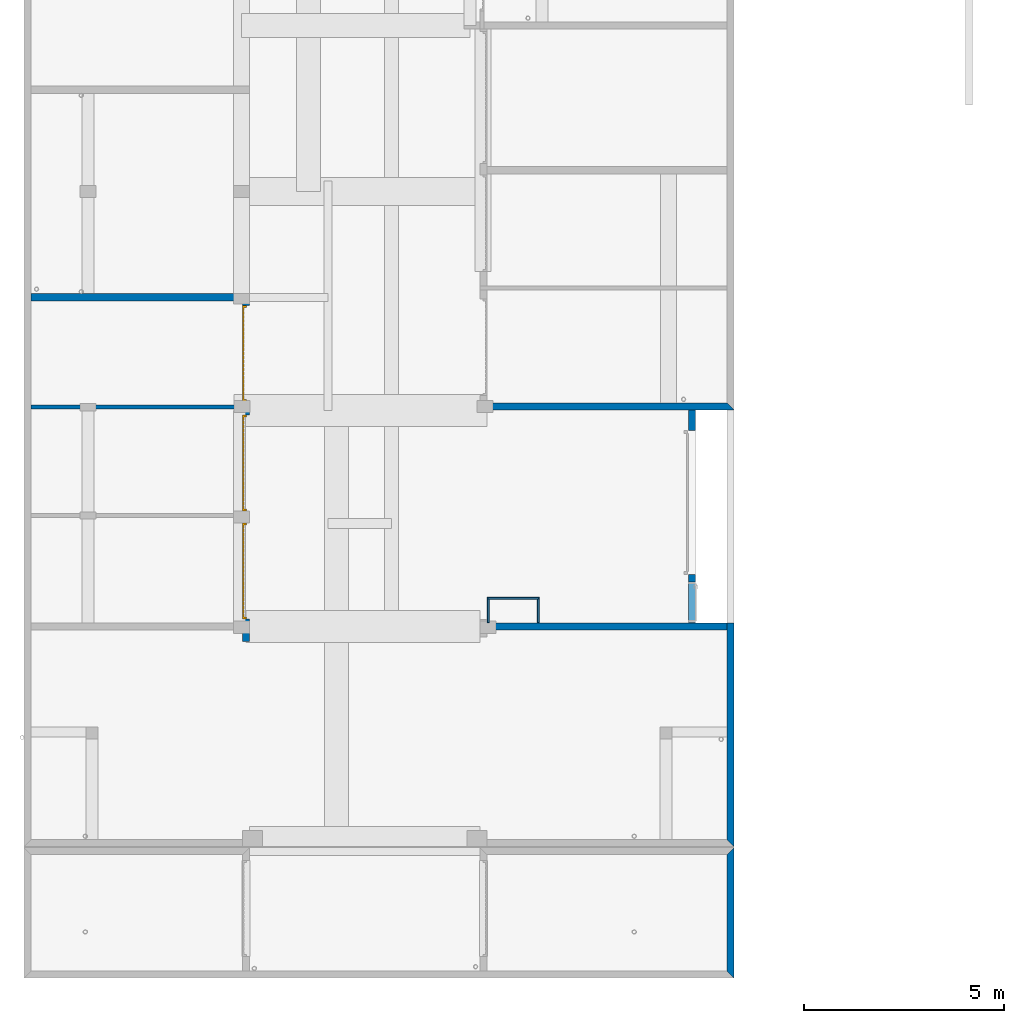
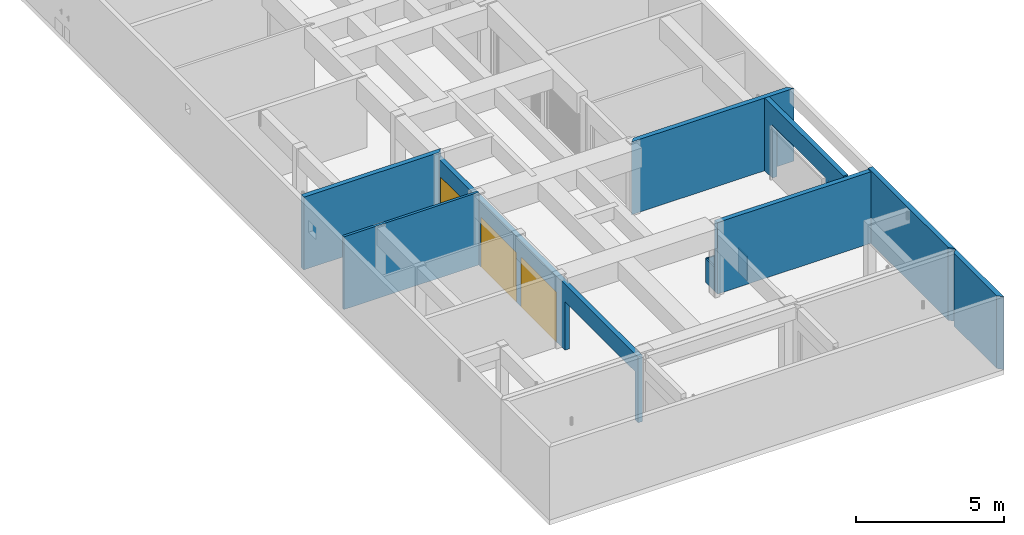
# One storey, part 5 of 41: 11 walls, 3 doors, 6 openings.
"""IFC2X3 building model written with IfcOpenShell, lengths in millimetres."""

from ifc_helpers import new_model, entity, si_unit, converted_unit, derived_unit, money_unit, direction, frame, origin_with_axes, origin_2d_with_axis, place, context, subcontext, project, spatial, polyline, rectangle, outline, extrude, faceted_brep, source, transform, mapped, material, layer, layer_set, layer_usage, type_object, element, fill, save


model = new_model("IFC2X3")

# Units and contexts
model_context = context("Model", 3, precision=0.01, world=origin_with_axes(), true_north=direction((0.0, 1.0)))
body_context = subcontext(model_context, "Body", "Model", "MODEL_VIEW")
ifc_project = project(units=[si_unit("LENGTHUNIT", "METRE", prefix="MILLI"), si_unit("AREAUNIT", "SQUARE_METRE"), si_unit("VOLUMEUNIT", "CUBIC_METRE"), converted_unit("PLANEANGLEUNIT", "DEGREE", entity("IfcPlaneAngleMeasure", 0.0174532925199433), si_unit("PLANEANGLEUNIT", "RADIAN"), dimensions=[0, 0, 0, 0, 0, 0, 0]), money_unit("USD"), converted_unit("TIMEUNIT", "Year", entity("IfcTimeMeasure", 31557600.0), si_unit("TIMEUNIT", "SECOND"), dimensions=[0, 0, 1, 0, 0, 0, 0]), si_unit("MASSUNIT", "GRAM", prefix="KILO"), si_unit("THERMODYNAMICTEMPERATUREUNIT", "DEGREE_CELSIUS"), si_unit("LUMINOUSINTENSITYUNIT", "LUMEN"), si_unit("ENERGYUNIT", "JOULE", prefix="MEGA"), derived_unit("THERMALCONDUCTANCEUNIT", [(si_unit("POWERUNIT", "WATT"), 1), (si_unit("LENGTHUNIT", "METRE"), -1), (si_unit("THERMODYNAMICTEMPERATUREUNIT", "KELVIN"), -1)]), derived_unit("SPECIFICHEATCAPACITYUNIT", [(si_unit("ENERGYUNIT", "JOULE"), 1), (si_unit("MASSUNIT", "GRAM", prefix="KILO"), -1), (si_unit("THERMODYNAMICTEMPERATUREUNIT", "KELVIN"), -1)]), derived_unit("MASSDENSITYUNIT", [(si_unit("MASSUNIT", "GRAM", prefix="KILO"), 1), (si_unit("VOLUMEUNIT", "CUBIC_METRE"), -1)])], contexts=[model_context])

# Site, building, storey
site_placement = place(None, origin_with_axes())
site = spatial("IfcSite", under=ifc_project, at=site_placement, Name="Site", CompositionType="ELEMENT")
building_placement = place(site_placement, origin_with_axes())
building = spatial("IfcBuilding", under=site, at=building_placement, Name="Bâtiment", CompositionType="ELEMENT")
storey_placement = place(building_placement, origin_with_axes())
storey = spatial("IfcBuildingStorey", under=building, at=storey_placement, Name="sousol", CompositionType="ELEMENT", Elevation=0.0)

# Walls
ifc_material_1 = material(Name="Brique 1 268964100")
ifc_layer_1 = layer(ifc_material_1, 100.0, ventilated="UNKNOWN")
ifc_layer_set_1 = layer_set([ifc_layer_1], Name="Cloison 100 gaine")
ifc_layer_usage_1 = layer_usage(ifc_layer_set_1, "AXIS2", "NEGATIVE", 0.0)
wall_type_1 = type_object("IfcWallType", Name="Cloison 100 gaine 100", PredefinedType="NOTDEFINED")
wall_1_placement = place(storey_placement, frame((2222264.233344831, -646896.3764873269, 0.0), z_axis=(0.0, 0.0, 1.0), x_axis=(-1.0, 0.0, 0.0)))
element("IfcWallStandardCase", 1, at=wall_1_placement, inside=storey, type_object=wall_type_1, material=ifc_layer_usage_1, Name="Mur-133", context=body_context, shape_type="SweptSolid", body=[
    extrude(outline(polyline([(180.0000000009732, -99.99999999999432), (5450.000000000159, -99.99999999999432), (5450.000000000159, 0.0), (180.0000000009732, 0.0), (180.0000000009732, -99.99999999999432)])), origin_with_axes(), (0.0, 0.0, 1.0), 3000.0),
])
ifc_material_2 = material(Name="Parpaing 314940890")
ifc_layer_2 = layer(ifc_material_2, 180.0, ventilated="UNKNOWN")
ifc_layer_set_2 = layer_set([ifc_layer_2], Name="Beton  18 0170347028")
ifc_layer_usage_2 = layer_usage(ifc_layer_set_2, "AXIS2", "POSITIVE", 0.0)
wall_type_2 = type_object("IfcWallType", Name="Beton  18 0170347028 180", PredefinedType="NOTDEFINED")
wall_2_placement = place(storey_placement, frame((2222264.233344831, -644016.3764873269, 0.0), z_axis=(0.0, 0.0, 1.0), x_axis=(-1.0, 0.0, 0.0)))
element("IfcWallStandardCase", 2, at=wall_2_placement, inside=storey, type_object=wall_type_2, material=ifc_layer_usage_2, Name="Mur-133", context=body_context, shape_type="SweptSolid", body=[
    extrude(outline(polyline([(1.477928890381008e-09, 0.0), (5450.0000000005, 0.0), (5450.0000000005, 180.0000000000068), (180.0000000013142, 180.0000000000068), (1.477928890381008e-09, 0.0)])), origin_with_axes(), (0.0, 0.0, 1.0), 3000.0),
])
ifc_layer_usage_3 = layer_usage(ifc_layer_set_2, "AXIS2", "POSITIVE", 0.0)
wall_3_placement = place(storey_placement, frame((2228014.233344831, -652412.6820620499, 0.0), z_axis=(0.0, 0.0, 1.0), x_axis=(1.0, 0.0, 0.0)))
element("IfcWallStandardCase", 3, at=wall_3_placement, inside=storey, type_object=wall_type_2, material=ifc_layer_usage_3, Name="Mur-133", context=body_context, shape_type="SweptSolid", body=[
    extrude(outline(polyline([(179.9999851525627, 0.0), (6162.407998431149, 0.0), (6162.407998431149, 180.0000000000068), (179.9999851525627, 180.0000000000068), (179.9999851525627, 0.0)])), origin_with_axes(), (0.0, 0.0, 1.0), 2950.0),
])

# Wall, openings, doors
ifc_layer_usage_4 = layer_usage(ifc_layer_set_2, "AXIS2", "NEGATIVE", 0.0)
wall_4_placement = place(storey_placement, frame((2222264.233344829, -644016.3764873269, 0.0), z_axis=(0.0, 0.0, 1.0), x_axis=(0.0, -1.0, 0.0)))
wall_4 = element("IfcWallStandardCase", 4, at=wall_4_placement, inside=storey, type_object=wall_type_2, material=ifc_layer_usage_4, Name="Mur-133", context=body_context, shape_type="SweptSolid", body=[
    extrude(outline(polyline([(180.0000000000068, -180.0000000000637), (13621.94658963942, -179.99999999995), (13621.94658963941, 0.0), (0.0, 0.0), (180.0000000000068, -180.0000000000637)])), origin_with_axes(), (0.0, 0.0, 1.0), 2719.999999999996),
])
opening_1_placement = place(wall_4_placement, frame((1488.943890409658, 1.13686837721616e-10, 0.0), z_axis=(0.0, 0.0, 1.0), x_axis=(1.0, 0.0, 0.0)))
opening_1 = element("IfcOpeningElement", 5, at=opening_1_placement, cuts=wall_4, Name="Por-296", context=body_context, shape_type="SweptSolid", body=[
    extrude(rectangle(XDim=2400.000000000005, YDim=2050.0, at=origin_2d_with_axis()), frame((0.0, -179.99999999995, 1025.0), z_axis=(0.0, 1.0, 0.0), x_axis=(1.0, 0.0, 0.0)), (0.0, 0.0, -1.0), 180.0),
    extrude(rectangle(XDim=2400.000000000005, YDim=2050.0, at=origin_2d_with_axis()), frame((0.0, -179.99999999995, 1025.0), z_axis=(0.0, -1.0, 0.0), x_axis=(1.0, 0.0, 0.0)), (0.0, 0.0, -1.0), 180.0),
])
opening_2_placement = place(wall_4_placement, frame((6921.079189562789, 2.273736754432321e-10, 0.0), z_axis=(0.0, 0.0, 1.0), x_axis=(1.0, 0.0, 0.0)))
opening_2 = element("IfcOpeningElement", 6, at=opening_2_placement, cuts=wall_4, Name="Por-296", context=body_context, shape_type="SweptSolid", body=[
    extrude(rectangle(XDim=2400.000000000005, YDim=2050.0, at=origin_2d_with_axis()), frame((0.0, -180.0000000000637, 1025.0), z_axis=(0.0, 1.0, 0.0), x_axis=(1.0, 0.0, 0.0)), (0.0, 0.0, -1.0), 180.0),
    extrude(rectangle(XDim=2400.000000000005, YDim=2050.0, at=origin_2d_with_axis()), frame((0.0, -180.0000000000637, 1025.0), z_axis=(0.0, -1.0, 0.0), x_axis=(1.0, 0.0, 0.0)), (0.0, 0.0, -1.0), 180.0),
])
opening_3_placement = place(wall_4_placement, frame((11040.72933361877, 2.273736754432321e-10, 0.0), z_axis=(0.0, 0.0, 1.0), x_axis=(1.0, 0.0, 0.0)))
element("IfcOpeningElement", 7, at=opening_3_placement, cuts=wall_4, Name="Por-241", context=body_context, shape_type="SweptSolid", body=[
    extrude(rectangle(XDim=4722.434512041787, YDim=2000.0, at=origin_2d_with_axis()), frame((0.0, -180.0000000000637, 999.9999999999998), z_axis=(0.0, 1.0, 0.0), x_axis=(1.0, 0.0, 0.0)), (0.0, 0.0, -1.0), 180.0),
    extrude(rectangle(XDim=4722.434512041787, YDim=2000.0, at=origin_2d_with_axis()), frame((0.0, -180.0000000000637, 999.9999999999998), z_axis=(0.0, -1.0, 0.0), x_axis=(1.0, 0.0, 0.0)), (0.0, 0.0, -1.0), 180.0),
])
opening_4_placement = place(wall_4_placement, frame((4223.444034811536, 1.13686837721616e-10, 0.0), z_axis=(0.0, 0.0, 1.0), x_axis=(1.0, 0.0, 0.0)))
opening_4 = element("IfcOpeningElement", 8, at=opening_4_placement, cuts=wall_4, Name="Por-296", context=body_context, shape_type="SweptSolid", body=[
    extrude(rectangle(XDim=2400.000000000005, YDim=2050.0, at=origin_2d_with_axis()), frame((0.0, -179.99999999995, 1025.0), z_axis=(0.0, 1.0, 0.0), x_axis=(1.0, 0.0, 0.0)), (0.0, 0.0, -1.0), 180.0),
    extrude(rectangle(XDim=2400.000000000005, YDim=2050.0, at=origin_2d_with_axis()), frame((0.0, -179.99999999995, 1025.0), z_axis=(0.0, -1.0, 0.0), x_axis=(1.0, 0.0, 0.0)), (0.0, 0.0, -1.0), 180.0),
])
door_style = type_object("IfcDoorStyle", Name="P_garage 1", ConstructionType="NOTDEFINED", OperationType="NOTDEFINED", ParameterTakesPrecedence=False, Sizeable=False)
shared_shape = source(origin_with_axes(), body_context, "Body", "Brep", [
    faceted_brep([(-1200.0, 0.0, 0.0), (-1150.0, 0.0, 0.0), (-1150.0, -100.0, 0.0), (-1200.0, -100.0, 0.0), (-1200.0, 0.0, 2050.0), (1200.0, 0.0, 2050.0), (1200.0, 0.0, 0.0), (1150.0, 0.0, 0.0), (1150.0, 0.0, 2000.0), (-1150.0, 0.0, 2000.0), (-1150.0, -100.0, 2000.0), (1150.0, -100.0, 2000.0), (1150.0, -100.0, 0.0), (1200.0, -100.0, 0.0), (1200.0, -100.0, 2050.0), (-1200.0, -100.0, 2050.0)], [[[0, 1, 2, 3]], [[0, 4, 5, 6, 7, 8, 9, 1]], [[1, 9, 10, 2]], [[3, 2, 10, 11, 12, 13, 14, 15]], [[4, 0, 3, 15]], [[5, 4, 15, 14]], [[6, 5, 14, 13]], [[7, 6, 13, 12]], [[8, 7, 12, 11]], [[9, 8, 11, 10]]]),
    faceted_brep([(-1069.130434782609, -40.0, 0.0), (-1069.130434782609, -26.66666666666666, 0.0), (-1069.130434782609, -26.66666666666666, 2000.0), (-1069.130434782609, -40.0, 2000.0), (-1150.0, -40.0, 0.0), (-1150.0, -26.66666666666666, 0.0), (-1150.0, -26.66666666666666, 2000.0), (-1150.0, -40.0, 2000.0)], [[[0, 1, 2, 3]], [[4, 5, 1, 0]], [[1, 5, 6, 2]], [[3, 2, 6, 7]], [[0, 3, 7, 4]], [[7, 6, 5, 4]]]),
    faceted_brep([(-968.2608695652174, -40.0, 0.0), (-968.2608695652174, -26.66666666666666, 0.0), (-968.2608695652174, -26.66666666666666, 2000.0), (-968.2608695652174, -40.0, 2000.0), (-1049.130434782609, -40.0, 0.0), (-1049.130434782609, -26.66666666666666, 0.0), (-1049.130434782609, -26.66666666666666, 2000.0), (-1049.130434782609, -40.0, 2000.0)], [[[0, 1, 2, 3]], [[4, 5, 1, 0]], [[1, 5, 6, 2]], [[3, 2, 6, 7]], [[0, 3, 7, 4]], [[7, 6, 5, 4]]]),
    faceted_brep([(-867.3913043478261, -40.0, 0.0), (-867.3913043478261, -26.66666666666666, 0.0), (-867.3913043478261, -26.66666666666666, 2000.0), (-867.3913043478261, -40.0, 2000.0), (-948.2608695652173, -40.0, 0.0), (-948.2608695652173, -26.66666666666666, 0.0), (-948.2608695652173, -26.66666666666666, 2000.0), (-948.2608695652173, -40.0, 2000.0)], [[[0, 1, 2, 3]], [[4, 5, 1, 0]], [[1, 5, 6, 2]], [[3, 2, 6, 7]], [[0, 3, 7, 4]], [[7, 6, 5, 4]]]),
    faceted_brep([(-766.5217391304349, -40.0, 0.0), (-766.5217391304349, -26.66666666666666, 0.0), (-766.5217391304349, -26.66666666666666, 2000.0), (-766.5217391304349, -40.0, 2000.0), (-847.391304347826, -40.0, 0.0), (-847.391304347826, -26.66666666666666, 0.0), (-847.391304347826, -26.66666666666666, 2000.0), (-847.391304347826, -40.0, 2000.0)], [[[0, 1, 2, 3]], [[4, 5, 1, 0]], [[1, 5, 6, 2]], [[3, 2, 6, 7]], [[0, 3, 7, 4]], [[7, 6, 5, 4]]]),
    faceted_brep([(-665.6521739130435, -40.0, 0.0), (-665.6521739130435, -26.66666666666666, 0.0), (-665.6521739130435, -26.66666666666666, 2000.0), (-665.6521739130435, -40.0, 2000.0), (-746.5217391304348, -40.0, 0.0), (-746.5217391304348, -26.66666666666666, 0.0), (-746.5217391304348, -26.66666666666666, 2000.0), (-746.5217391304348, -40.0, 2000.0)], [[[0, 1, 2, 3]], [[4, 5, 1, 0]], [[1, 5, 6, 2]], [[3, 2, 6, 7]], [[0, 3, 7, 4]], [[7, 6, 5, 4]]]),
    faceted_brep([(-564.7826086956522, -40.0, 0.0), (-564.7826086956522, -26.66666666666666, 0.0), (-564.7826086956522, -26.66666666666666, 2000.0), (-564.7826086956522, -40.0, 2000.0), (-645.6521739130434, -40.0, 0.0), (-645.6521739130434, -26.66666666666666, 0.0), (-645.6521739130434, -26.66666666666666, 2000.0), (-645.6521739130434, -40.0, 2000.0)], [[[0, 1, 2, 3]], [[4, 5, 1, 0]], [[1, 5, 6, 2]], [[3, 2, 6, 7]], [[0, 3, 7, 4]], [[7, 6, 5, 4]]]),
    faceted_brep([(-463.9130434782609, -40.0, 0.0), (-463.9130434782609, -26.66666666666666, 0.0), (-463.9130434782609, -26.66666666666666, 2000.0), (-463.9130434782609, -40.0, 2000.0), (-544.7826086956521, -40.0, 0.0), (-544.7826086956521, -26.66666666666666, 0.0), (-544.7826086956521, -26.66666666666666, 2000.0), (-544.7826086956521, -40.0, 2000.0)], [[[0, 1, 2, 3]], [[4, 5, 1, 0]], [[1, 5, 6, 2]], [[3, 2, 6, 7]], [[0, 3, 7, 4]], [[7, 6, 5, 4]]]),
    faceted_brep([(-363.0434782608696, -40.0, 0.0), (-363.0434782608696, -26.66666666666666, 0.0), (-363.0434782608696, -26.66666666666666, 2000.0), (-363.0434782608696, -40.0, 2000.0), (-443.9130434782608, -40.0, 0.0), (-443.9130434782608, -26.66666666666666, 0.0), (-443.9130434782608, -26.66666666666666, 2000.0), (-443.9130434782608, -40.0, 2000.0)], [[[0, 1, 2, 3]], [[4, 5, 1, 0]], [[1, 5, 6, 2]], [[3, 2, 6, 7]], [[0, 3, 7, 4]], [[7, 6, 5, 4]]]),
    faceted_brep([(-262.1739130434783, -40.0, 0.0), (-262.1739130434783, -26.66666666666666, 0.0), (-262.1739130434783, -26.66666666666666, 2000.0), (-262.1739130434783, -40.0, 2000.0), (-343.0434782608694, -40.0, 0.0), (-343.0434782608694, -26.66666666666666, 0.0), (-343.0434782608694, -26.66666666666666, 2000.0), (-343.0434782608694, -40.0, 2000.0)], [[[0, 1, 2, 3]], [[4, 5, 1, 0]], [[1, 5, 6, 2]], [[3, 2, 6, 7]], [[0, 3, 7, 4]], [[7, 6, 5, 4]]]),
    faceted_brep([(-161.3043478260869, -40.0, 0.0), (-161.3043478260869, -26.66666666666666, 0.0), (-161.3043478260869, -26.66666666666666, 2000.0), (-161.3043478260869, -40.0, 2000.0), (-242.1739130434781, -40.0, 0.0), (-242.1739130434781, -26.66666666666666, 0.0), (-242.1739130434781, -26.66666666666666, 2000.0), (-242.1739130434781, -40.0, 2000.0)], [[[0, 1, 2, 3]], [[4, 5, 1, 0]], [[1, 5, 6, 2]], [[3, 2, 6, 7]], [[0, 3, 7, 4]], [[7, 6, 5, 4]]]),
    faceted_brep([(-60.43478260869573, -40.0, 0.0), (-60.43478260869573, -26.66666666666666, 0.0), (-60.43478260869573, -26.66666666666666, 2000.0), (-60.43478260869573, -40.0, 2000.0), (-141.3043478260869, -40.0, 0.0), (-141.3043478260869, -26.66666666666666, 0.0), (-141.3043478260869, -26.66666666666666, 2000.0), (-141.3043478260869, -40.0, 2000.0)], [[[0, 1, 2, 3]], [[4, 5, 1, 0]], [[1, 5, 6, 2]], [[3, 2, 6, 7]], [[0, 3, 7, 4]], [[7, 6, 5, 4]]]),
    faceted_brep([(40.43478260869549, -40.0, 0.0), (40.43478260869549, -26.66666666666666, 0.0), (40.43478260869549, -26.66666666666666, 2000.0), (40.43478260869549, -40.0, 2000.0), (-40.43478260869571, -40.0, 0.0), (-40.43478260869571, -26.66666666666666, 0.0), (-40.43478260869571, -26.66666666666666, 2000.0), (-40.43478260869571, -40.0, 2000.0)], [[[0, 1, 2, 3]], [[4, 5, 1, 0]], [[1, 5, 6, 2]], [[3, 2, 6, 7]], [[0, 3, 7, 4]], [[7, 6, 5, 4]]]),
    faceted_brep([(141.3043478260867, -40.0, 0.0), (141.3043478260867, -26.66666666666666, 0.0), (141.3043478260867, -26.66666666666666, 2000.0), (141.3043478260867, -40.0, 2000.0), (60.4347826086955, -40.0, 0.0), (60.4347826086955, -26.66666666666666, 0.0), (60.4347826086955, -26.66666666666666, 2000.0), (60.4347826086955, -40.0, 2000.0)], [[[0, 1, 2, 3]], [[4, 5, 1, 0]], [[1, 5, 6, 2]], [[3, 2, 6, 7]], [[0, 3, 7, 4]], [[7, 6, 5, 4]]]),
    faceted_brep([(242.1739130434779, -40.0, 0.0), (242.1739130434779, -26.66666666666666, 0.0), (242.1739130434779, -26.66666666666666, 2000.0), (242.1739130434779, -40.0, 2000.0), (161.3043478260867, -40.0, 0.0), (161.3043478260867, -26.66666666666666, 0.0), (161.3043478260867, -26.66666666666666, 2000.0), (161.3043478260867, -40.0, 2000.0)], [[[0, 1, 2, 3]], [[4, 5, 1, 0]], [[1, 5, 6, 2]], [[3, 2, 6, 7]], [[0, 3, 7, 4]], [[7, 6, 5, 4]]]),
    faceted_brep([(343.0434782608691, -40.0, 0.0), (343.0434782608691, -26.66666666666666, 0.0), (343.0434782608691, -26.66666666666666, 2000.0), (343.0434782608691, -40.0, 2000.0), (262.1739130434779, -40.0, 0.0), (262.1739130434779, -26.66666666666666, 0.0), (262.1739130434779, -26.66666666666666, 2000.0), (262.1739130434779, -40.0, 2000.0)], [[[0, 1, 2, 3]], [[4, 5, 1, 0]], [[1, 5, 6, 2]], [[3, 2, 6, 7]], [[0, 3, 7, 4]], [[7, 6, 5, 4]]]),
    faceted_brep([(443.9130434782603, -40.0, 0.0), (443.9130434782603, -26.66666666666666, 0.0), (443.9130434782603, -26.66666666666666, 2000.0), (443.9130434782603, -40.0, 2000.0), (363.0434782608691, -40.0, 0.0), (363.0434782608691, -26.66666666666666, 0.0), (363.0434782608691, -26.66666666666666, 2000.0), (363.0434782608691, -40.0, 2000.0)], [[[0, 1, 2, 3]], [[4, 5, 1, 0]], [[1, 5, 6, 2]], [[3, 2, 6, 7]], [[0, 3, 7, 4]], [[7, 6, 5, 4]]]),
    faceted_brep([(544.7826086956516, -40.0, 0.0), (544.7826086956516, -26.66666666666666, 0.0), (544.7826086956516, -26.66666666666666, 2000.0), (544.7826086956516, -40.0, 2000.0), (463.9130434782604, -40.0, 0.0), (463.9130434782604, -26.66666666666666, 0.0), (463.9130434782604, -26.66666666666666, 2000.0), (463.9130434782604, -40.0, 2000.0)], [[[0, 1, 2, 3]], [[4, 5, 1, 0]], [[1, 5, 6, 2]], [[3, 2, 6, 7]], [[0, 3, 7, 4]], [[7, 6, 5, 4]]]),
    faceted_brep([(645.6521739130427, -40.0, 0.0), (645.6521739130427, -26.66666666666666, 0.0), (645.6521739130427, -26.66666666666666, 2000.0), (645.6521739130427, -40.0, 2000.0), (564.7826086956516, -40.0, 0.0), (564.7826086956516, -26.66666666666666, 0.0), (564.7826086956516, -26.66666666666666, 2000.0), (564.7826086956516, -40.0, 2000.0)], [[[0, 1, 2, 3]], [[4, 5, 1, 0]], [[1, 5, 6, 2]], [[3, 2, 6, 7]], [[0, 3, 7, 4]], [[7, 6, 5, 4]]]),
    faceted_brep([(746.521739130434, -40.0, 0.0), (746.521739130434, -26.66666666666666, 0.0), (746.521739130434, -26.66666666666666, 2000.0), (746.521739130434, -40.0, 2000.0), (665.6521739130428, -40.0, 0.0), (665.6521739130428, -26.66666666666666, 0.0), (665.6521739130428, -26.66666666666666, 2000.0), (665.6521739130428, -40.0, 2000.0)], [[[0, 1, 2, 3]], [[4, 5, 1, 0]], [[1, 5, 6, 2]], [[3, 2, 6, 7]], [[0, 3, 7, 4]], [[7, 6, 5, 4]]]),
    faceted_brep([(847.3913043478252, -40.0, 0.0), (847.3913043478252, -26.66666666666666, 0.0), (847.3913043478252, -26.66666666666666, 2000.0), (847.3913043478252, -40.0, 2000.0), (766.521739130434, -40.0, 0.0), (766.521739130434, -26.66666666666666, 0.0), (766.521739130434, -26.66666666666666, 2000.0), (766.521739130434, -40.0, 2000.0)], [[[0, 1, 2, 3]], [[4, 5, 1, 0]], [[1, 5, 6, 2]], [[3, 2, 6, 7]], [[0, 3, 7, 4]], [[7, 6, 5, 4]]]),
    faceted_brep([(948.2608695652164, -40.0, 0.0), (948.2608695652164, -26.66666666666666, 0.0), (948.2608695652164, -26.66666666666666, 2000.0), (948.2608695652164, -40.0, 2000.0), (867.3913043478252, -40.0, 0.0), (867.3913043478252, -26.66666666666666, 0.0), (867.3913043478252, -26.66666666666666, 2000.0), (867.3913043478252, -40.0, 2000.0)], [[[0, 1, 2, 3]], [[4, 5, 1, 0]], [[1, 5, 6, 2]], [[3, 2, 6, 7]], [[0, 3, 7, 4]], [[7, 6, 5, 4]]]),
    faceted_brep([(1049.130434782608, -40.0, 0.0), (1049.130434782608, -26.66666666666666, 0.0), (1049.130434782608, -26.66666666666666, 2000.0), (1049.130434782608, -40.0, 2000.0), (968.2608695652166, -40.0, 0.0), (968.2608695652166, -26.66666666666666, 0.0), (968.2608695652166, -26.66666666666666, 2000.0), (968.2608695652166, -40.0, 2000.0)], [[[0, 1, 2, 3]], [[4, 5, 1, 0]], [[1, 5, 6, 2]], [[3, 2, 6, 7]], [[0, 3, 7, 4]], [[7, 6, 5, 4]]]),
    faceted_brep([(1149.999999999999, -40.0, 0.0), (1149.999999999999, -26.66666666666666, 0.0), (1149.999999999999, -26.66666666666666, 2000.0), (1149.999999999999, -40.0, 2000.0), (1069.130434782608, -40.0, 0.0), (1069.130434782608, -26.66666666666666, 0.0), (1069.130434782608, -26.66666666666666, 2000.0), (1069.130434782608, -40.0, 2000.0)], [[[0, 1, 2, 3]], [[4, 5, 1, 0]], [[1, 5, 6, 2]], [[3, 2, 6, 7]], [[0, 3, 7, 4]], [[7, 6, 5, 4]]]),
    faceted_brep([(-1150.0, -26.66666666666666, 0.0), (-1150.0, 0.0, 0.0), (1150.0, 0.0, 0.0), (1150.0, -26.66666666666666, 0.0), (-1150.0, -26.66666666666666, 2000.0), (-1150.0, 0.0, 2000.0), (1150.0, 0.0, 2000.0), (1150.0, -26.66666666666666, 2000.0)], [[[0, 1, 2, 3]], [[4, 5, 1, 0]], [[1, 5, 6, 2]], [[3, 2, 6, 7]], [[0, 3, 7, 4]], [[7, 6, 5, 4]]]),
])
door_1_placement = place(opening_1_placement, frame((1199.99999999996, 1.13686837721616e-10, 0.0), z_axis=(0.0, 0.0, 1.0), x_axis=(-1.0, 0.0, 0.0)))
door_1 = element("IfcDoor", 9, at=door_1_placement, inside=storey, type_object=door_style, Name="Por-296", OverallHeight=2050.0, OverallWidth=2400.0, context=body_context, shape_type="MappedRepresentation", body=[
    mapped(shared_shape, transform((1200.000000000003, 179.99999999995, 0.0))),
])
fill(opening_1, door_1)
door_2_placement = place(opening_4_placement, frame((1199.999999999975, 1.13686837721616e-10, 0.0), z_axis=(0.0, 0.0, 1.0), x_axis=(-1.0, 0.0, 0.0)))
door_2 = element("IfcDoor", 10, at=door_2_placement, inside=storey, type_object=door_style, Name="Por-296", OverallHeight=2050.0, OverallWidth=2400.0, context=body_context, shape_type="MappedRepresentation", body=[
    mapped(shared_shape, transform((1200.000000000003, 179.99999999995, 0.0))),
])
fill(opening_4, door_2)
door_3_placement = place(opening_2_placement, frame((1200.000000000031, 2.273736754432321e-10, 0.0), z_axis=(0.0, 0.0, 1.0), x_axis=(-1.0, 0.0, 0.0)))
door_3 = element("IfcDoor", 11, at=door_3_placement, inside=storey, type_object=door_style, Name="Por-296", OverallHeight=2050.0, OverallWidth=2400.0, context=body_context, shape_type="MappedRepresentation", body=[
    mapped(shared_shape, transform((1200.000000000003, 180.0000000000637, 0.0))),
])
fill(opening_2, door_3)

# Walls
ifc_layer_usage_5 = layer_usage(ifc_layer_set_2, "AXIS2", "POSITIVE", 0.0)
wall_5_placement = place(storey_placement, frame((2228014.233338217, -646918.7617120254, 0.0), z_axis=(0.0, 0.0, 1.0), x_axis=(1.0, 0.0, 0.0)))
element("IfcWallStandardCase", 12, at=wall_5_placement, inside=storey, type_object=wall_type_2, material=ifc_layer_usage_5, Name="Mur-133", context=body_context, shape_type="SweptSolid", body=[
    extrude(outline(polyline([(0.0, 0.0), (6342.408006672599, 0.0), (6162.408006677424, 180.0000000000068), (180.0000001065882, 179.9999999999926), (0.0, 0.0)])), origin_with_axes(), (0.0, 0.0, 1.0), 3000.0),
])
ifc_layer_usage_6 = layer_usage(ifc_layer_set_2, "AXIS2", "NEGATIVE", 0.0)
wall_6_placement = place(storey_placement, frame((2234356.641343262, -657838.3230769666, 0.0), z_axis=(0.0, 0.0, 1.0), x_axis=(0.0, -1.0, 0.0)))
element("IfcWallStandardCase", 13, at=wall_6_placement, inside=storey, type_object=wall_type_2, material=ifc_layer_usage_6, Name="Mur-132", context=body_context, shape_type="SweptSolid", body=[
    extrude(outline(polyline([(180.0000000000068, -179.99999999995), (3079.559726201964, -179.99999999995), (3259.555208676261, 0.0), (0.0, 0.0), (180.0000000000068, -179.99999999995)])), origin_with_axes(), (0.0, 0.0, 1.0), 3000.0),
])
ifc_layer_usage_7 = layer_usage(ifc_layer_set_2, "AXIS2", "NEGATIVE", 0.0)
wall_7_placement = place(storey_placement, frame((2234356.641343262, -652232.6820620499, 0.0), z_axis=(0.0, 0.0, 1.0), x_axis=(0.0, -1.0, 0.0)))
element("IfcWallStandardCase", 14, at=wall_7_placement, inside=storey, type_object=wall_type_2, material=ifc_layer_usage_7, Name="Mur-132", context=body_context, shape_type="SweptSolid", body=[
    extrude(outline(polyline([(0.0, -179.99999999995), (5405.641014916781, -179.99999999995), (5585.641014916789, 0.0), (0.0, 0.0), (0.0, -179.99999999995)])), origin_with_axes(), (0.0, 0.0, 1.0), 3000.0),
])

# Wall, openings
ifc_layer_usage_8 = layer_usage(ifc_layer_set_2, "AXIS2", "NEGATIVE", 0.0)
wall_8_placement = place(storey_placement, frame((2233394.233344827, -646918.7617118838, 0.0), z_axis=(0.0, 0.0, 1.0), x_axis=(0.0, -1.0, 0.0)))
wall_8 = element("IfcWallStandardCase", 15, at=wall_8_placement, inside=storey, type_object=wall_type_2, material=ifc_layer_usage_8, Name="Mur-132", context=body_context, shape_type="SweptSolid", body=[
    extrude(outline(polyline([(4.732214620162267e-09, -179.99999999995), (5313.920350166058, -179.99999999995), (5313.920350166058, 0.0), (0.0, 0.0), (4.732214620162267e-09, -179.99999999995)])), origin_with_axes(), (0.0, 0.0, 1.0), 3000.0),
])
opening_5_placement = place(wall_8_placement, frame((2306.943442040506, -2.273736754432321e-10, 0.0), z_axis=(0.0, 0.0, 1.0), x_axis=(1.0, 0.0, 0.0)))
element("IfcOpeningElement", 16, at=opening_5_placement, cuts=wall_8, Name="Por-238", context=body_context, shape_type="SweptSolid", body=[
    extrude(rectangle(XDim=3600.000000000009, YDim=2200.0, at=origin_2d_with_axis()), frame((0.0, -199.9999999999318, 1100.0), z_axis=(0.0, -1.0, 0.0), x_axis=(1.0, 0.0, 0.0)), (0.0, 0.0, -1.0), 380.0),
    extrude(rectangle(XDim=3600.000000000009, YDim=2200.0, at=origin_2d_with_axis()), frame((0.0, -199.9999999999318, 1100.0), z_axis=(0.0, 1.0, 0.0), x_axis=(1.0, 0.0, 0.0)), (0.0, 0.0, -1.0), 380.0),
])
opening_6_placement = place(wall_8_placement, frame((4796.844061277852, -2.273736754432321e-10, 110.0000000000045), z_axis=(0.0, 0.0, 1.0), x_axis=(1.0, 0.0, 0.0)))
element("IfcOpeningElement", 17, at=opening_6_placement, cuts=wall_8, Name="Por-238", context=body_context, shape_type="SweptSolid", body=[
    extrude(rectangle(XDim=1009.999986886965, YDim=2090.0, at=origin_2d_with_axis()), frame((-6.556518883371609e-06, -179.99999999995, 1045.0), z_axis=(0.0, 1.0, 0.0), x_axis=(1.0, 0.0, 0.0)), (0.0, 0.0, 1.0), 360.0),
])

# Walls
ifc_material_3 = material(Name="Hachure solide 268963992")
ifc_layer_3 = layer(ifc_material_3, 50.0, ventilated="UNKNOWN")
ifc_layer_set_3 = layer_set([ifc_layer_3], Name="Cloison 50")
ifc_layer_usage_9 = layer_usage(ifc_layer_set_3, "AXIS2", "NEGATIVE", 0.0)
wall_type_3 = type_object("IfcWallType", Name="Cloison 50 50", PredefinedType="NOTDEFINED")
wall_9_placement = place(storey_placement, frame((2228194.233329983, -652412.6820620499, 0.0), z_axis=(0.0, 0.0, 1.0), x_axis=(0.0, 1.0, 0.0)))
element("IfcWallStandardCase", 18, at=wall_9_placement, inside=storey, type_object=wall_type_3, material=ifc_layer_usage_9, Name="Mur-167", context=body_context, shape_type="SweptSolid", body=[
    extrude(outline(polyline([(180.0000000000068, -49.99999999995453), (766.0278688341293, -49.99999999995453), (816.0278688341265, 0.0), (180.0000000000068, 0.0), (180.0000000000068, -49.99999999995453)])), origin_with_axes(), (0.0, 0.0, 1.0), 1000.0),
])
ifc_layer_usage_10 = layer_usage(ifc_layer_set_3, "AXIS2", "NEGATIVE", 0.0)
wall_10_placement = place(storey_placement, frame((2228194.233329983, -651596.6541932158, 0.0), z_axis=(0.0, 0.0, 1.0), x_axis=(1.0, 0.0, 0.0)))
element("IfcWallStandardCase", 19, at=wall_10_placement, inside=storey, type_object=wall_type_3, material=ifc_layer_usage_10, Name="Mur-168", context=body_context, shape_type="SweptSolid", body=[
    extrude(outline(polyline([(49.99999999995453, -49.99999999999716), (1252.467528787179, -49.99999999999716), (1302.467528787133, 0.0), (0.0, 0.0), (49.99999999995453, -49.99999999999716)])), origin_with_axes(), (0.0, 0.0, 1.0), 1000.0),
])
ifc_layer_usage_11 = layer_usage(ifc_layer_set_3, "AXIS2", "NEGATIVE", 0.0)
wall_11_placement = place(storey_placement, frame((2229496.70085877, -651596.6541932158, 0.0), z_axis=(0.0, 0.0, 1.0), x_axis=(0.0, -1.0, 0.0)))
element("IfcWallStandardCase", 20, at=wall_11_placement, inside=storey, type_object=wall_type_3, material=ifc_layer_usage_11, Name="Mur-169", context=body_context, shape_type="SweptSolid", body=[
    extrude(outline(polyline([(49.99999999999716, -49.99999999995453), (636.0278688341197, -49.99999999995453), (636.0278688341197, 0.0), (0.0, 0.0), (49.99999999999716, -49.99999999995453)])), origin_with_axes(), (0.0, 0.0, 1.0), 1000.0),
])

save(model, "model.ifc")
